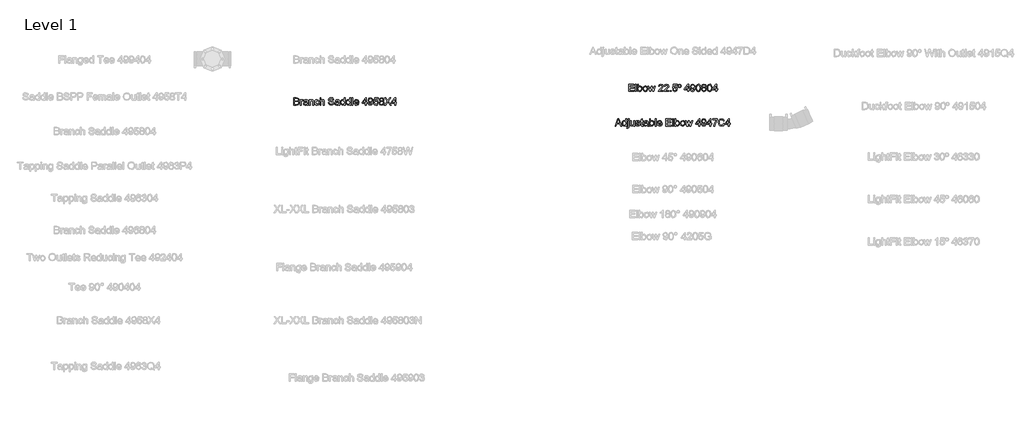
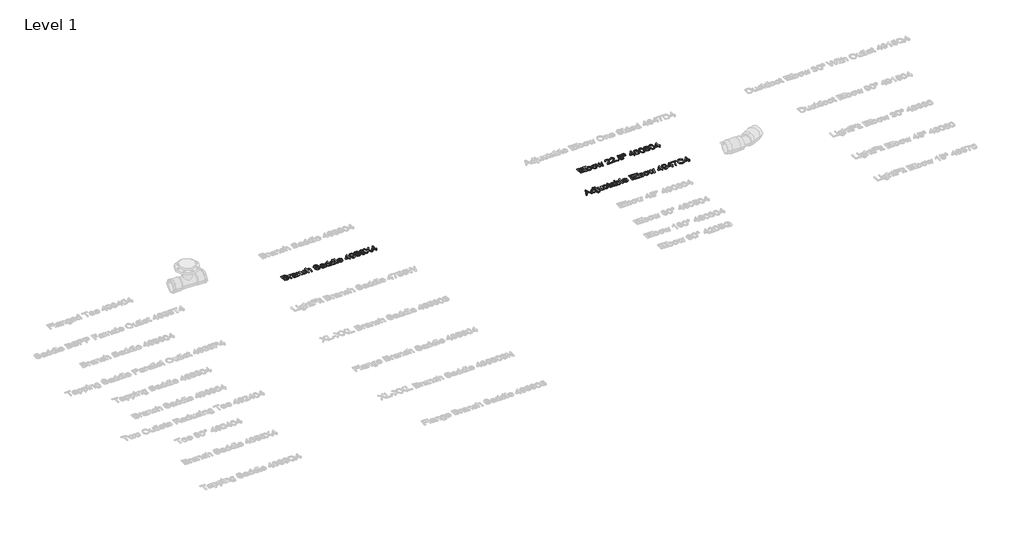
# One storey, part 17 of 41: 3 proxies.
"""IFC4 building model written with IfcOpenShell, lengths in millimetres."""

from ifc_helpers import new_model, si_unit, origin, origin_with_axes, place, context, project, spatial, polyline, outline, extrude, element, save

model = new_model("IFC4")

# Units and contexts
model_context = context("Model", 3, world=origin())
ifc_project = project(units=[si_unit("LENGTHUNIT", "METRE", prefix="MILLI")], contexts=[model_context])

# Site, building, storey
site = spatial("IfcSite", under=ifc_project)
building = spatial("IfcBuilding", under=site)
storey = spatial("IfcBuildingStorey", under=building, Name="Level 1", Elevation=0.0)

# Proxies
placement = place(None, origin())
element("IfcBuildingElementProxy", 1, Name="100 mm Arial", ObjectType="100 mm Arial", at=placement, inside=storey, context=model_context, shape_type="SweptSolid", body=[
    extrude(outline(polyline([(11300.1412583, 4708.1156584), (11300.1412583, 4767.1925814), (11342.6027968, 4767.1925814), (11342.6027968, 4759.8079661), (11307.5258737, 4759.8079661), (11307.5258737, 4742.2695045), (11340.756643, 4742.2695045), (11340.756643, 4734.8848891), (11307.5258737, 4734.8848891), (11307.5258737, 4715.5002738), (11343.5258737, 4715.5002738), (11343.5258737, 4708.1156584), (11300.1412583, 4708.1156584)])), origin_with_axes(), (0.0, 0.0, 1.0), 5.0),
    extrude(outline(polyline([(11353.6797199, 4708.1156584), (11353.6797199, 4767.1925814), (11361.0643353, 4767.1925814), (11361.0643353, 4708.1156584), (11353.6797199, 4708.1156584)])), origin_with_axes(), (0.0, 0.0, 1.0), 5.0),
    extrude(outline(polyline([(11379.5258737, 4708.1156584), (11372.1412583, 4708.1156584), (11372.1412583, 4767.1925814), (11379.5258737, 4767.1925814), (11379.5258737, 4745.2839276), (11384.6965468, 4750.6384949), (11391.1220276, 4752.4233507), (11398.521066, 4750.8151776), (11404.2614506, 4746.293543), (11407.787893, 4739.262293), (11409.0643353, 4730.4570045), (11407.7428208, 4720.5988314), (11403.7782776, 4713.2646968), (11397.9603689, 4708.7106103), (11391.0787583, 4707.1925814), (11384.5126526, 4709.1505141), (11379.5258737, 4715.0243122), (11379.5258737, 4708.1156584)]), holes=[polyline([(11379.5258737, 4730.1108507), (11381.5451045, 4719.7839276), (11390.444143, 4714.5771968), (11398.3479891, 4718.4137353), (11401.6797199, 4729.8512353), (11398.4850083, 4741.3320045), (11390.7614506, 4745.0387353), (11382.8576045, 4741.2021968), (11379.5258737, 4730.1108507)])]), origin_with_axes(), (0.0, 0.0, 1.0), 5.0),
    extrude(outline(polyline([(11415.5258737, 4729.8079661), (11417.1232295, 4740.2683026), (11421.9152968, 4747.6204661), (11434.9249122, 4752.4233507), (11442.6827247, 4750.9612113), (11448.8792391, 4746.574793), (11452.9411381, 4739.6102497), (11454.2951045, 4730.4137353), (11451.9008737, 4717.2743122), (11444.927316, 4709.8392161), (11434.9249122, 4707.1925814), (11427.0733497, 4708.6493122), (11420.8840468, 4713.0195045), (11416.865417, 4720.1300814), (11415.5258737, 4729.8079661)]), holes=[polyline([(11422.9104891, 4729.8223891), (11426.3287583, 4718.3776776), (11434.9249122, 4714.5771968), (11443.4922199, 4718.3993122), (11446.9104891, 4730.0531584), (11443.4705853, 4741.2382545), (11434.9249122, 4745.0387353), (11426.3287583, 4741.2526776), (11422.9104891, 4729.8223891)])]), origin_with_axes(), (0.0, 0.0, 1.0), 5.0),
    extrude(outline(polyline([(11469.7999122, 4708.1156584), (11456.6027968, 4751.5002738), (11464.2758737, 4751.5002738), (11471.7614506, 4726.1877738), (11473.9970276, 4717.1445045), (11475.8287583, 4725.856043), (11481.7854891, 4751.5002738), (11490.583566, 4751.5002738), (11496.5114506, 4725.9281584), (11498.1412583, 4718.0387353), (11500.4777968, 4726.3608507), (11507.9777968, 4751.5002738), (11515.6797199, 4751.5002738), (11502.381643, 4708.1156584), (11493.4537583, 4708.1156584), (11487.7854891, 4733.5579661), (11486.1412583, 4741.4906584), (11478.8287583, 4708.1156584), (11469.7999122, 4708.1156584)])), origin_with_axes(), (0.0, 0.0, 1.0), 5.0),
    extrude(outline(polyline([(11579.833566, 4715.5002738), (11579.833566, 4708.1156584), (11541.0643353, 4708.1156584), (11541.8576045, 4713.2070045), (11546.3431814, 4721.0459468), (11555.5883737, 4729.606043), (11568.3383737, 4741.9089276), (11571.5258737, 4750.2743122), (11568.5186622, 4757.0459468), (11560.6652968, 4759.8079661), (11552.4802006, 4757.1108507), (11549.3720276, 4749.6541199), (11541.9874122, 4750.5771968), (11547.6484699, 4762.9377738), (11560.8239506, 4767.1925814), (11574.0427006, 4762.4618122), (11578.9104891, 4750.7214276), (11577.5979891, 4743.7190238), (11573.2350083, 4736.4786391), (11562.6556814, 4726.3608507), (11554.1604891, 4719.2574853), (11550.8287583, 4715.5002738), (11579.833566, 4715.5002738)])), origin_with_axes(), (0.0, 0.0, 1.0), 5.0),
    extrude(outline(polyline([(11625.0643353, 4715.5002738), (11625.0643353, 4708.1156584), (11586.2951045, 4708.1156584), (11587.0883737, 4713.2070045), (11591.5739506, 4721.0459468), (11600.819143, 4729.606043), (11613.569143, 4741.9089276), (11616.756643, 4750.2743122), (11613.7494314, 4757.0459468), (11605.896066, 4759.8079661), (11597.7109699, 4757.1108507), (11594.6027968, 4749.6541199), (11587.2181814, 4750.5771968), (11592.8792391, 4762.9377738), (11606.0547199, 4767.1925814), (11619.2734699, 4762.4618122), (11624.1412583, 4750.7214276), (11622.8287583, 4743.7190238), (11618.4657776, 4736.4786391), (11607.8864506, 4726.3608507), (11599.3912583, 4719.2574853), (11596.0595276, 4715.5002738), (11625.0643353, 4715.5002738)])), origin_with_axes(), (0.0, 0.0, 1.0), 5.0),
    extrude(outline(polyline([(11636.1412583, 4708.1156584), (11636.1412583, 4715.5002738), (11643.5258737, 4715.5002738), (11643.5258737, 4708.1156584), (11636.1412583, 4708.1156584)])), origin_with_axes(), (0.0, 0.0, 1.0), 5.0),
    extrude(outline(polyline([(11655.5258737, 4723.8079661), (11662.9104891, 4724.731043), (11666.631643, 4717.1228699), (11674.3479891, 4714.5771968), (11683.6076045, 4718.1180622), (11686.9104891, 4727.5146968), (11683.8167391, 4736.2839276), (11674.4633737, 4739.5002738), (11667.9802006, 4738.2166199), (11663.833566, 4734.8848891), (11656.4489506, 4735.8079661), (11662.9104891, 4766.2695045), (11691.5258737, 4766.2695045), (11691.5258737, 4758.8848891), (11668.881643, 4758.8848891), (11665.7229891, 4742.6156584), (11676.5258737, 4746.8848891), (11689.1532776, 4741.5916199), (11694.2951045, 4727.9762353), (11689.6652968, 4714.2743122), (11683.0162583, 4708.9630141), (11674.319143, 4707.1925814), (11661.287893, 4711.7430622), (11655.5258737, 4723.8079661)])), origin_with_axes(), (0.0, 0.0, 1.0), 5.0),
    extrude(outline(polyline([(11712.2951045, 4768.1156584), (11721.944143, 4764.0627738), (11725.6797199, 4752.8704661), (11721.9225083, 4741.7070045), (11712.3383737, 4737.6541199), (11702.6677006, 4741.6276776), (11698.9104891, 4752.6973891), (11702.646066, 4764.0627738), (11712.2951045, 4768.1156584)]), holes=[polyline([(11712.2951045, 4762.5771968), (11707.9465468, 4760.3055622), (11706.2951045, 4752.8848891), (11707.975393, 4745.5291199), (11712.2951045, 4743.1925814), (11716.6292391, 4745.5291199), (11718.2951045, 4753.0868122), (11716.614816, 4760.262293), (11712.2951045, 4762.5771968)])]), origin_with_axes(), (0.0, 0.0, 1.0), 5.0),
    extrude(outline(polyline([(11778.2951045, 4708.1156584), (11778.2951045, 4721.9618122), (11751.5258737, 4721.9618122), (11751.5258737, 4729.3464276), (11780.1412583, 4766.2695045), (11785.6797199, 4766.2695045), (11785.6797199, 4729.3464276), (11793.0643353, 4729.3464276), (11793.0643353, 4721.9618122), (11785.6797199, 4721.9618122), (11785.6797199, 4708.1156584), (11778.2951045, 4708.1156584)]), holes=[polyline([(11778.2951045, 4729.3464276), (11778.2951045, 4752.1637353), (11760.6124122, 4729.3464276), (11778.2951045, 4729.3464276)])]), origin_with_axes(), (0.0, 0.0, 1.0), 5.0),
    extrude(outline(polyline([(11800.4489506, 4722.8848891), (11807.833566, 4723.8079661), (11811.1508737, 4716.762293), (11817.4393353, 4714.5771968), (11823.4177006, 4715.9834468), (11827.4705853, 4719.7406584), (11829.8864506, 4726.1589276), (11830.9537583, 4734.7262353), (11825.0042391, 4730.5723891), (11816.9056814, 4728.4233507), (11804.5667391, 4733.6733507), (11799.5258737, 4747.5050814), (11804.8119314, 4761.7839276), (11818.0595276, 4767.1925814), (11828.5811622, 4764.106043), (11835.8215468, 4755.3079661), (11838.2951045, 4738.7791199), (11835.8287583, 4720.8440238), (11828.4946237, 4710.6829661), (11817.0931814, 4707.1925814), (11805.7422199, 4711.3103699), (11800.4489506, 4722.8848891)]), holes=[polyline([(11830.9104891, 4747.6781584), (11827.7229891, 4756.5339276), (11819.256643, 4759.8079661), (11810.3720276, 4756.2815238), (11806.9104891, 4747.1445045), (11810.1845276, 4738.9594084), (11819.0547199, 4735.8079661), (11827.5715468, 4738.9594084), (11830.9104891, 4747.6781584)])]), origin_with_axes(), (0.0, 0.0, 1.0), 5.0),
    extrude(outline(polyline([(11844.756643, 4737.1781584), (11846.927316, 4754.1757545), (11853.3744314, 4763.9762353), (11864.1412583, 4767.1925814), (11872.7662583, 4765.2887353), (11878.7229891, 4759.8007545), (11882.1845276, 4751.0603699), (11883.5258737, 4737.1781584), (11881.3768353, 4720.2526776), (11874.9513545, 4710.4305622), (11864.1412583, 4707.1925814), (11856.4681814, 4708.5988314), (11850.6412583, 4712.8175814), (11846.2277968, 4722.809168), (11844.756643, 4737.1781584)]), holes=[polyline([(11852.1412583, 4737.1925814), (11855.6027968, 4718.8536391), (11864.1412583, 4714.5771968), (11872.6797199, 4718.8680622), (11876.1412583, 4737.1925814), (11872.7951045, 4755.3223891), (11864.0547199, 4759.8079661), (11855.7181814, 4755.856043), (11852.1412583, 4737.1925814)])]), origin_with_axes(), (0.0, 0.0, 1.0), 5.0),
    extrude(outline(polyline([(11900.7470276, 4740.6541199), (11894.0186622, 4745.2406584), (11891.833566, 4752.3800814), (11896.5931814, 4762.9233507), (11909.271066, 4767.1925814), (11922.0643353, 4762.8223891), (11926.9104891, 4752.1781584), (11924.7542391, 4745.2190238), (11918.2133737, 4740.6541199), (11926.0667391, 4734.8632545), (11928.756643, 4725.3079661), (11923.4201045, 4712.4137353), (11909.3720276, 4707.1925814), (11895.3239506, 4712.4353699), (11889.9874122, 4725.5098891), (11892.7854891, 4735.2887353), (11900.7470276, 4740.6541199)]), holes=[polyline([(11897.3720276, 4725.7695045), (11898.6052006, 4720.2094084), (11902.9681814, 4716.0483507), (11909.4297199, 4714.5771968), (11918.2277968, 4717.6709468), (11921.3720276, 4725.5387353), (11918.1268353, 4733.5579661), (11909.1845276, 4736.731043), (11900.4946237, 4733.6012353), (11897.3720276, 4725.7695045)]), polyline([(11899.2181814, 4752.1637353), (11901.8359699, 4746.3656584), (11909.458566, 4744.1156584), (11916.9297199, 4746.3512353), (11919.5258737, 4751.8320045), (11916.8431814, 4757.5074853), (11909.3720276, 4759.8079661), (11901.8792391, 4757.5579661), (11899.2181814, 4752.1637353)])]), origin_with_axes(), (0.0, 0.0, 1.0), 5.0),
    extrude(outline(polyline([(11935.2181814, 4737.1781584), (11937.3888545, 4754.1757545), (11943.8359699, 4763.9762353), (11954.6027968, 4767.1925814), (11963.2277968, 4765.2887353), (11969.1845276, 4759.8007545), (11972.646066, 4751.0603699), (11973.9874122, 4737.1781584), (11971.8383737, 4720.2526776), (11965.412893, 4710.4305622), (11954.6027968, 4707.1925814), (11946.9297199, 4708.5988314), (11941.1027968, 4712.8175814), (11936.6893353, 4722.809168), (11935.2181814, 4737.1781584)]), holes=[polyline([(11942.6027968, 4737.1925814), (11946.0643353, 4718.8536391), (11954.6027968, 4714.5771968), (11963.1412583, 4718.8680622), (11966.6027968, 4737.1925814), (11963.256643, 4755.3223891), (11954.5162583, 4759.8079661), (11946.1797199, 4755.856043), (11942.6027968, 4737.1925814)])]), origin_with_axes(), (0.0, 0.0, 1.0), 5.0),
    extrude(outline(polyline([(12004.4489506, 4708.1156584), (12004.4489506, 4721.9618122), (11977.6797199, 4721.9618122), (11977.6797199, 4729.3464276), (12006.2951045, 4766.2695045), (12011.833566, 4766.2695045), (12011.833566, 4729.3464276), (12019.2181814, 4729.3464276), (12019.2181814, 4721.9618122), (12011.833566, 4721.9618122), (12011.833566, 4708.1156584), (12004.4489506, 4708.1156584)]), holes=[polyline([(12004.4489506, 4729.3464276), (12004.4489506, 4752.1637353), (11986.7662583, 4729.3464276), (12004.4489506, 4729.3464276)])]), origin_with_axes(), (0.0, 0.0, 1.0), 5.0),
])
element("IfcBuildingElementProxy", 2, Name="100 mm Arial", ObjectType="100 mm Arial", at=placement, inside=storey, context=model_context, shape_type="SweptSolid", body=[
    extrude(outline(polyline([(11189.8768353, 4428.1156584), (11213.458566, 4487.1925814), (11219.7470276, 4487.1925814), (11243.3287583, 4428.1156584), (11235.5258737, 4428.1156584), (11228.7614506, 4446.5771968), (11204.4297199, 4446.5771968), (11197.6797199, 4428.1156584), (11189.8768353, 4428.1156584)]), holes=[polyline([(11207.1412583, 4453.9618122), (11226.0643353, 4453.9618122), (11220.7422199, 4468.4858507), (11216.6027968, 4479.8079661), (11212.9249122, 4469.7550814), (11207.1412583, 4453.9618122)])]), origin_with_axes(), (0.0, 0.0, 1.0), 5.0),
    extrude(outline(polyline([(11277.0643353, 4428.1156584), (11277.0643353, 4435.0820045), (11272.178518, 4429.1649372), (11265.4249122, 4427.1925814), (11256.2806814, 4430.0483507), (11249.819143, 4438.0171007), (11247.5258737, 4449.7646968), (11249.6388545, 4461.5195045), (11255.9705853, 4469.6108507), (11265.396066, 4472.4233507), (11272.2037583, 4470.4113314), (11277.0643353, 4465.1829661), (11277.0643353, 4487.1925814), (11284.4489506, 4487.1925814), (11284.4489506, 4428.1156584), (11277.0643353, 4428.1156584)]), holes=[polyline([(11254.9104891, 4449.793543), (11258.2422199, 4438.3632545), (11266.1027968, 4434.5771968), (11273.8696237, 4438.1901776), (11277.0643353, 4449.231043), (11273.8119314, 4461.2166199), (11265.7999122, 4465.0387353), (11258.0258737, 4461.3680622), (11254.9104891, 4449.793543)])]), origin_with_axes(), (0.0, 0.0, 1.0), 5.0),
    extrude(outline(polyline([(11295.5258737, 4479.8079661), (11295.5258737, 4487.1925814), (11302.9104891, 4487.1925814), (11302.9104891, 4479.8079661), (11295.5258737, 4479.8079661)])), origin_with_axes(), (0.0, 0.0, 1.0), 5.0),
    extrude(outline(polyline([(11286.2229891, 4411.4714276), (11287.7806814, 4418.4954661), (11291.1701045, 4417.9618122), (11294.4513545, 4419.4257545), (11295.5258737, 4426.7454661), (11295.5258737, 4471.5002738), (11302.9104891, 4471.5002738), (11302.9104891, 4425.793543), (11300.819143, 4414.6589276), (11291.9922199, 4410.5771968), (11286.2229891, 4411.4714276)])), origin_with_axes(), (0.0, 0.0, 1.0), 5.0),
    extrude(outline(polyline([(11341.6797199, 4428.1156584), (11341.6797199, 4435.5723891), (11335.896066, 4429.2875334), (11328.3527968, 4427.1925814), (11321.4080853, 4428.6637353), (11316.6196237, 4432.356043), (11314.4201045, 4437.793543), (11313.9874122, 4444.6589276), (11313.9874122, 4471.5002738), (11321.3720276, 4471.5002738), (11321.3720276, 4448.1348891), (11321.819143, 4440.606043), (11324.739816, 4436.1853699), (11330.2422199, 4434.5771968), (11336.4080853, 4436.2214276), (11340.4826045, 4440.699793), (11341.6797199, 4448.9281584), (11341.6797199, 4471.5002738), (11349.0643353, 4471.5002738), (11349.0643353, 4428.1156584), (11341.6797199, 4428.1156584)])), origin_with_axes(), (0.0, 0.0, 1.0), 5.0),
    extrude(outline(polyline([(11356.4489506, 4441.0387353), (11363.833566, 4441.9618122), (11367.2518353, 4436.481043), (11375.083566, 4434.5771968), (11382.6124122, 4436.3223891), (11385.0643353, 4440.418543), (11382.5979891, 4443.7358507), (11374.9970276, 4445.8416199), (11363.8768353, 4449.4546007), (11359.0234699, 4453.6733507), (11357.3720276, 4459.6300814), (11358.6989506, 4465.1324853), (11362.319143, 4469.3368122), (11367.0138545, 4471.5219084), (11373.3672199, 4472.4233507), (11382.3527968, 4470.9738314), (11388.0643353, 4467.0507545), (11390.6027968, 4460.4233507), (11383.2181814, 4459.5002738), (11380.4417391, 4463.574793), (11373.944143, 4465.0387353), (11366.8768353, 4463.6396968), (11364.756643, 4460.3800814), (11365.6364506, 4458.231043), (11368.3912583, 4456.6012353), (11374.7518353, 4455.0291199), (11385.5907776, 4451.5531584), (11390.6244314, 4447.6156584), (11392.4489506, 4441.1973891), (11390.3071237, 4434.1300814), (11384.1268353, 4429.0026776), (11374.9826045, 4427.1925814), (11362.1027968, 4430.6829661), (11356.4489506, 4441.0387353)])), origin_with_axes(), (0.0, 0.0, 1.0), 5.0),
    extrude(outline(polyline([(11416.4489506, 4434.2743122), (11417.3720276, 4427.8993122), (11411.8479891, 4427.1925814), (11405.6604891, 4428.418543), (11402.5739506, 4431.6348891), (11401.6797199, 4440.0146968), (11401.6797199, 4464.1156584), (11396.1412583, 4464.1156584), (11396.1412583, 4471.5002738), (11401.6797199, 4471.5002738), (11401.6797199, 4482.043543), (11409.0643353, 4486.3848891), (11409.0643353, 4471.5002738), (11416.4489506, 4471.5002738), (11416.4489506, 4464.1156584), (11409.0643353, 4464.1156584), (11409.0643353, 4440.231043), (11409.4537583, 4436.4233507), (11410.7157776, 4435.074793), (11413.2326045, 4434.5771968), (11416.4489506, 4434.2743122)])), origin_with_axes(), (0.0, 0.0, 1.0), 5.0),
    extrude(outline(polyline([(11451.5258737, 4433.6541199), (11444.364816, 4428.6493122), (11436.4537583, 4427.1925814), (11425.7302006, 4430.6973891), (11421.9874122, 4439.6541199), (11423.4008737, 4445.4954661), (11427.114816, 4449.7358507), (11432.2854891, 4452.1589276), (11438.6749122, 4453.2695045), (11451.4826045, 4455.8079661), (11451.5258737, 4457.4521968), (11449.4922199, 4462.9041199), (11441.3287583, 4465.0387353), (11433.8576045, 4463.6180622), (11430.2951045, 4458.5771968), (11422.9104891, 4459.5002738), (11426.1052006, 4466.7118122), (11432.537893, 4470.9377738), (11442.2806814, 4472.4233507), (11451.2302006, 4471.1108507), (11456.2854891, 4467.8151776), (11458.5499122, 4462.8031584), (11458.9104891, 4456.3416199), (11458.9104891, 4447.1541199), (11459.2854891, 4434.324793), (11460.756643, 4428.1156584), (11453.3720276, 4428.1156584), (11451.5258737, 4433.6541199)]), holes=[polyline([(11451.5258737, 4448.4233507), (11439.6124122, 4446.1589276), (11433.2590468, 4444.9618122), (11430.381643, 4443.0146968), (11429.3720276, 4440.1733507), (11431.5715468, 4436.1781584), (11438.0258737, 4434.5771968), (11445.4970276, 4436.3440238), (11450.3143353, 4440.6204661), (11451.4826045, 4446.3320045), (11451.5258737, 4448.4233507)])]), origin_with_axes(), (0.0, 0.0, 1.0), 5.0),
    extrude(outline(polyline([(11476.4489506, 4428.1156584), (11469.0643353, 4428.1156584), (11469.0643353, 4487.1925814), (11476.4489506, 4487.1925814), (11476.4489506, 4465.2839276), (11481.6196237, 4470.6384949), (11488.0451045, 4472.4233507), (11495.444143, 4470.8151776), (11501.1845276, 4466.293543), (11504.7109699, 4459.262293), (11505.9874122, 4450.4570045), (11504.6658978, 4440.5988314), (11500.7013545, 4433.2646968), (11494.8834458, 4428.7106103), (11488.0018353, 4427.1925814), (11481.4357295, 4429.1505141), (11476.4489506, 4435.0243122), (11476.4489506, 4428.1156584)]), holes=[polyline([(11476.4489506, 4450.1108507), (11478.4681814, 4439.7839276), (11487.3672199, 4434.5771968), (11495.271066, 4438.4137353), (11498.6027968, 4449.8512353), (11495.4080853, 4461.3320045), (11487.6845276, 4465.0387353), (11479.7806814, 4461.2021968), (11476.4489506, 4450.1108507)])]), origin_with_axes(), (0.0, 0.0, 1.0), 5.0),
    extrude(outline(polyline([(11514.2951045, 4428.1156584), (11514.2951045, 4487.1925814), (11521.6797199, 4487.1925814), (11521.6797199, 4428.1156584), (11514.2951045, 4428.1156584)])), origin_with_axes(), (0.0, 0.0, 1.0), 5.0),
    extrude(outline(polyline([(11563.131643, 4441.0387353), (11570.3720276, 4440.1156584), (11563.600393, 4430.5820045), (11550.9874122, 4427.1925814), (11542.3227487, 4428.6547209), (11535.6556814, 4433.0411391), (11531.4044795, 4440.0669805), (11529.9874122, 4449.4473891), (11531.4189026, 4459.1433026), (11535.7133737, 4466.3945045), (11542.2902968, 4470.9161391), (11550.569143, 4472.4233507), (11558.5901766, 4470.9197449), (11564.9994314, 4466.4089276), (11569.2019555, 4459.1721488), (11570.6027968, 4449.4906584), (11570.5595276, 4447.5002738), (11537.3720276, 4447.5002738), (11541.6196237, 4437.9089276), (11551.131643, 4434.5771968), (11558.3720276, 4436.1204661), (11563.131643, 4441.0387353)]), holes=[polyline([(11537.3720276, 4454.8848891), (11563.2181814, 4454.8848891), (11560.2614506, 4461.5771968), (11550.5402968, 4465.0387353), (11541.4465468, 4462.2767161), (11537.3720276, 4454.8848891)])]), origin_with_axes(), (0.0, 0.0, 1.0), 5.0),
    extrude(outline(polyline([(11601.9874122, 4428.1156584), (11601.9874122, 4487.1925814), (11644.4489506, 4487.1925814), (11644.4489506, 4479.8079661), (11609.3720276, 4479.8079661), (11609.3720276, 4462.2695045), (11642.6027968, 4462.2695045), (11642.6027968, 4454.8848891), (11609.3720276, 4454.8848891), (11609.3720276, 4435.5002738), (11645.3720276, 4435.5002738), (11645.3720276, 4428.1156584), (11601.9874122, 4428.1156584)])), origin_with_axes(), (0.0, 0.0, 1.0), 5.0),
    extrude(outline(polyline([(11655.5258737, 4428.1156584), (11655.5258737, 4487.1925814), (11662.9104891, 4487.1925814), (11662.9104891, 4428.1156584), (11655.5258737, 4428.1156584)])), origin_with_axes(), (0.0, 0.0, 1.0), 5.0),
    extrude(outline(polyline([(11681.3720276, 4428.1156584), (11673.9874122, 4428.1156584), (11673.9874122, 4487.1925814), (11681.3720276, 4487.1925814), (11681.3720276, 4465.2839276), (11686.5427006, 4470.6384949), (11692.9681814, 4472.4233507), (11700.3672199, 4470.8151776), (11706.1076045, 4466.293543), (11709.6340468, 4459.262293), (11710.9104891, 4450.4570045), (11709.5889747, 4440.5988314), (11705.6244314, 4433.2646968), (11699.8065228, 4428.7106103), (11692.9249122, 4427.1925814), (11686.3588064, 4429.1505141), (11681.3720276, 4435.0243122), (11681.3720276, 4428.1156584)]), holes=[polyline([(11681.3720276, 4450.1108507), (11683.3912583, 4439.7839276), (11692.2902968, 4434.5771968), (11700.194143, 4438.4137353), (11703.5258737, 4449.8512353), (11700.3311622, 4461.3320045), (11692.6076045, 4465.0387353), (11684.7037583, 4461.2021968), (11681.3720276, 4450.1108507)])]), origin_with_axes(), (0.0, 0.0, 1.0), 5.0),
    extrude(outline(polyline([(11717.3720276, 4449.8079661), (11718.9693833, 4460.2683026), (11723.7614506, 4467.6204661), (11736.771066, 4472.4233507), (11744.5288785, 4470.9612113), (11750.725393, 4466.574793), (11754.787292, 4459.6102497), (11756.1412583, 4450.4137353), (11753.7470276, 4437.2743122), (11746.7734699, 4429.8392161), (11736.771066, 4427.1925814), (11728.9195035, 4428.6493122), (11722.7302006, 4433.0195045), (11718.7115708, 4440.1300814), (11717.3720276, 4449.8079661)]), holes=[polyline([(11724.756643, 4449.8223891), (11728.1749122, 4438.3776776), (11736.771066, 4434.5771968), (11745.3383737, 4438.3993122), (11748.756643, 4450.0531584), (11745.3167391, 4461.2382545), (11736.771066, 4465.0387353), (11728.1749122, 4461.2526776), (11724.756643, 4449.8223891)])]), origin_with_axes(), (0.0, 0.0, 1.0), 5.0),
    extrude(outline(polyline([(11771.646066, 4428.1156584), (11758.4489506, 4471.5002738), (11766.1220276, 4471.5002738), (11773.6076045, 4446.1877738), (11775.8431814, 4437.1445045), (11777.6749122, 4445.856043), (11783.631643, 4471.5002738), (11792.4297199, 4471.5002738), (11798.3576045, 4445.9281584), (11799.9874122, 4438.0387353), (11802.3239506, 4446.3608507), (11809.8239506, 4471.5002738), (11817.5258737, 4471.5002738), (11804.2277968, 4428.1156584), (11795.2999122, 4428.1156584), (11789.631643, 4453.5579661), (11787.9874122, 4461.4906584), (11780.6749122, 4428.1156584), (11771.646066, 4428.1156584)])), origin_with_axes(), (0.0, 0.0, 1.0), 5.0),
    extrude(outline(polyline([(11867.833566, 4428.1156584), (11867.833566, 4441.9618122), (11841.0643353, 4441.9618122), (11841.0643353, 4449.3464276), (11869.6797199, 4486.2695045), (11875.2181814, 4486.2695045), (11875.2181814, 4449.3464276), (11882.6027968, 4449.3464276), (11882.6027968, 4441.9618122), (11875.2181814, 4441.9618122), (11875.2181814, 4428.1156584), (11867.833566, 4428.1156584)]), holes=[polyline([(11867.833566, 4449.3464276), (11867.833566, 4472.1637353), (11850.1508737, 4449.3464276), (11867.833566, 4449.3464276)])]), origin_with_axes(), (0.0, 0.0, 1.0), 5.0),
    extrude(outline(polyline([(11889.9874122, 4442.8848891), (11897.3720276, 4443.8079661), (11900.6893353, 4436.762293), (11906.9777968, 4434.5771968), (11912.9561622, 4435.9834468), (11917.0090468, 4439.7406584), (11919.4249122, 4446.1589276), (11920.4922199, 4454.7262353), (11914.5427006, 4450.5723891), (11906.444143, 4448.4233507), (11894.1052006, 4453.6733507), (11889.0643353, 4467.5050814), (11894.350393, 4481.7839276), (11907.5979891, 4487.1925814), (11918.1196237, 4484.106043), (11925.3600083, 4475.3079661), (11927.833566, 4458.7791199), (11925.3672199, 4440.8440238), (11918.0330853, 4430.6829661), (11906.631643, 4427.1925814), (11895.2806814, 4431.3103699), (11889.9874122, 4442.8848891)]), holes=[polyline([(11920.4489506, 4467.6781584), (11917.2614506, 4476.5339276), (11908.7951045, 4479.8079661), (11899.9104891, 4476.2815238), (11896.4489506, 4467.1445045), (11899.7229891, 4458.9594084), (11908.5931814, 4455.8079661), (11917.1100083, 4458.9594084), (11920.4489506, 4467.6781584)])]), origin_with_axes(), (0.0, 0.0, 1.0), 5.0),
    extrude(outline(polyline([(11958.2951045, 4428.1156584), (11958.2951045, 4441.9618122), (11931.5258737, 4441.9618122), (11931.5258737, 4449.3464276), (11960.1412583, 4486.2695045), (11965.6797199, 4486.2695045), (11965.6797199, 4449.3464276), (11973.0643353, 4449.3464276), (11973.0643353, 4441.9618122), (11965.6797199, 4441.9618122), (11965.6797199, 4428.1156584), (11958.2951045, 4428.1156584)]), holes=[polyline([(11958.2951045, 4449.3464276), (11958.2951045, 4472.1637353), (11940.6124122, 4449.3464276), (11958.2951045, 4449.3464276)])]), origin_with_axes(), (0.0, 0.0, 1.0), 5.0),
    extrude(outline(polyline([(11979.5258737, 4478.8848891), (11979.5258737, 4486.2695045), (12018.2951045, 4486.2695045), (12018.2951045, 4480.2983507), (12007.2975083, 4464.4113314), (11998.881643, 4444.168543), (11996.1412583, 4428.1156584), (11988.756643, 4428.1156584), (11991.6917391, 4444.7743122), (11999.7470276, 4463.6036391), (12010.9104891, 4478.8848891), (11979.5258737, 4478.8848891)])), origin_with_axes(), (0.0, 0.0, 1.0), 5.0),
    extrude(outline(polyline([(12069.0643353, 4449.1156584), (12076.4489506, 4447.2118122), (12067.694143, 4432.3199853), (12052.2326045, 4427.1925814), (12036.864816, 4431.0723891), (12027.850393, 4442.3079661), (12024.756643, 4458.1012353), (12028.2542391, 4474.1541199), (12038.1989506, 4484.5603699), (12052.3912583, 4488.1156584), (12067.1821237, 4483.5146968), (12075.5258737, 4470.5627738), (12068.1412583, 4468.8031584), (12062.083566, 4477.8824853), (12052.1027968, 4480.731043), (12040.5499122, 4477.5723891), (12034.0234699, 4469.0916199), (12032.1412583, 4458.1156584), (12034.3696237, 4445.3945045), (12041.3071237, 4437.2671007), (12051.4970276, 4434.5771968), (12062.7975083, 4438.2406584), (12069.0643353, 4449.1156584)])), origin_with_axes(), (0.0, 0.0, 1.0), 5.0),
    extrude(outline(polyline([(12107.833566, 4428.1156584), (12107.833566, 4441.9618122), (12081.0643353, 4441.9618122), (12081.0643353, 4449.3464276), (12109.6797199, 4486.2695045), (12115.2181814, 4486.2695045), (12115.2181814, 4449.3464276), (12122.6027968, 4449.3464276), (12122.6027968, 4441.9618122), (12115.2181814, 4441.9618122), (12115.2181814, 4428.1156584), (12107.833566, 4428.1156584)]), holes=[polyline([(12107.833566, 4449.3464276), (12107.833566, 4472.1637353), (12090.1508737, 4449.3464276), (12107.833566, 4449.3464276)])]), origin_with_axes(), (0.0, 0.0, 1.0), 5.0),
])
element("IfcBuildingElementProxy", 3, Name="100 mm Arial", ObjectType="100 mm Arial", at=placement, inside=storey, context=model_context, shape_type="SweptSolid", body=[
    extrude(outline(polyline([(8589.6731533, 4597.5779735), (8589.6731533, 4656.6548966), (8612.2164226, 4656.6548966), (8623.257288, 4654.9169158), (8629.7765187, 4649.5731658), (8632.1346918, 4642.0154735), (8630.1515187, 4635.1140312), (8624.1587303, 4629.8856658), (8631.4351726, 4624.3760505), (8633.9808456, 4615.1885505), (8632.2428649, 4607.2486466), (8627.9375764, 4601.5948005), (8621.5120956, 4598.5948005), (8612.0433456, 4597.5779735), (8589.6731533, 4597.5779735)]), holes=[polyline([(8597.0577687, 4604.9625889), (8612.2019995, 4604.9625889), (8617.6827687, 4605.2510505), (8622.319788, 4606.8592235), (8625.3919033, 4610.1404735), (8626.5962303, 4615.1164351), (8625.1827687, 4620.8568197), (8620.6034418, 4624.2823005), (8611.4808456, 4625.2702812), (8597.0577687, 4625.2702812), (8597.0577687, 4604.9625889)]), polyline([(8597.0577687, 4632.6548966), (8610.5433456, 4632.6548966), (8618.4183456, 4633.289512), (8623.1563264, 4636.0226851), (8624.7500764, 4640.8327812), (8623.2644995, 4645.6500889), (8619.0096918, 4648.4986466), (8609.5193072, 4649.2702812), (8597.0577687, 4649.2702812), (8597.0577687, 4632.6548966)])]), origin_with_axes(), (0.0, 0.0, 1.0), 5.0),
    extrude(outline(polyline([(8643.2116149, 4597.5779735), (8643.2116149, 4640.9625889), (8649.6731533, 4640.9625889), (8649.6731533, 4634.5443197), (8654.2596918, 4640.4577812), (8658.8750764, 4641.8856658), (8666.288538, 4639.6068197), (8663.8221918, 4632.9866274), (8658.6298841, 4634.5010505), (8654.4544033, 4633.0443197), (8651.7933456, 4629.0058582), (8650.5962303, 4620.3808582), (8650.5962303, 4597.5779735), (8643.2116149, 4597.5779735)])), origin_with_axes(), (0.0, 0.0, 1.0), 5.0),
    extrude(outline(polyline([(8698.5962303, 4603.1164351), (8691.4351726, 4598.1116274), (8683.5241149, 4596.6548966), (8672.8005572, 4600.1597043), (8669.0577687, 4609.1164351), (8670.4712303, 4614.9577812), (8674.1851726, 4619.1981658), (8679.3558456, 4621.6212428), (8685.7452687, 4622.7318197), (8698.552961, 4625.2702812), (8698.5962303, 4626.914512), (8696.5625764, 4632.3664351), (8688.3991149, 4634.5010505), (8680.927961, 4633.0803774), (8677.365461, 4628.039512), (8669.9808456, 4628.9625889), (8673.1755572, 4636.1741274), (8679.6082495, 4640.4000889), (8689.351038, 4641.8856658), (8698.3005572, 4640.5731658), (8703.3558456, 4637.2774928), (8705.6202687, 4632.2654735), (8705.9808456, 4625.8039351), (8705.9808456, 4616.6164351), (8706.3558456, 4603.7871082), (8707.8269995, 4597.5779735), (8700.4423841, 4597.5779735), (8698.5962303, 4603.1164351)]), holes=[polyline([(8698.5962303, 4617.8856658), (8686.6827687, 4615.6212428), (8680.3294033, 4614.4241274), (8677.4519995, 4612.477012), (8676.4423841, 4609.6356658), (8678.6419033, 4605.6404735), (8685.0962303, 4604.039512), (8692.5673841, 4605.8063389), (8697.3846918, 4610.0827812), (8698.552961, 4615.7943197), (8698.5962303, 4617.8856658)])]), origin_with_axes(), (0.0, 0.0, 1.0), 5.0),
    extrude(outline(polyline([(8716.1346918, 4597.5779735), (8716.1346918, 4640.9625889), (8723.5193072, 4640.9625889), (8723.5193072, 4634.9048966), (8729.1659418, 4640.1404735), (8736.8750764, 4641.8856658), (8743.8486341, 4640.4794158), (8748.6082495, 4636.7871082), (8750.8221918, 4631.3568197), (8751.2116149, 4624.2173966), (8751.2116149, 4597.5779735), (8743.8269995, 4597.5779735), (8743.8269995, 4623.2222043), (8742.976038, 4629.7558582), (8739.9688264, 4633.2101851), (8734.8991149, 4634.5010505), (8726.8870956, 4631.602012), (8723.5193072, 4620.5972043), (8723.5193072, 4597.5779735), (8716.1346918, 4597.5779735)])), origin_with_axes(), (0.0, 0.0, 1.0), 5.0),
    extrude(outline(polyline([(8789.0577687, 4613.2702812), (8796.4423841, 4612.3472043), (8790.5144995, 4600.8159543), (8778.802961, 4596.6548966), (8770.9477928, 4598.1062187), (8764.8053649, 4602.4601851), (8760.8408216, 4609.5256899), (8759.5193072, 4619.1116274), (8761.7765187, 4631.3784543), (8768.6563264, 4639.2606658), (8778.7019995, 4641.8856658), (8789.9303649, 4638.2798966), (8795.5193072, 4628.039512), (8788.1346918, 4627.1164351), (8784.709211, 4632.6476851), (8778.7596918, 4634.5010505), (8770.1995956, 4630.852012), (8766.9039226, 4619.3135505), (8770.1274803, 4607.6669158), (8778.5577687, 4604.039512), (8785.5169033, 4606.3039351), (8789.0577687, 4613.2702812)])), origin_with_axes(), (0.0, 0.0, 1.0), 5.0),
    extrude(outline(polyline([(8802.9039226, 4597.5779735), (8802.9039226, 4656.6548966), (8810.288538, 4656.6548966), (8810.288538, 4634.9337428), (8816.0469514, 4640.1476851), (8823.1394995, 4641.8856658), (8831.4327687, 4639.9890312), (8836.4664226, 4634.7462428), (8837.9808456, 4625.039512), (8837.9808456, 4597.5779735), (8830.5962303, 4597.5779735), (8830.5962303, 4624.2750889), (8828.2452687, 4632.0635505), (8821.5818072, 4634.5010505), (8815.5313264, 4632.8568197), (8811.4928649, 4628.4000889), (8810.288538, 4620.6260505), (8810.288538, 4597.5779735), (8802.9039226, 4597.5779735)])), origin_with_axes(), (0.0, 0.0, 1.0), 5.0),
    extrude(outline(polyline([(8869.365461, 4617.8856658), (8876.7500764, 4617.8856658), (8879.1298841, 4610.4938389), (8884.9423841, 4605.820762), (8893.7981533, 4604.039512), (8901.5144995, 4605.3880697), (8906.4976726, 4609.0948005), (8908.1346918, 4614.0491274), (8906.9087303, 4618.6573005), (8901.8894995, 4622.0106658), (8891.1370956, 4624.8303774), (8879.5625764, 4628.4722043), (8873.2813264, 4633.9673966), (8871.2116149, 4641.3087428), (8873.771711, 4649.6669158), (8881.2500764, 4655.5659543), (8892.1971918, 4657.5779735), (8903.8798841, 4655.4722043), (8911.6683456, 4649.2847043), (8914.5962303, 4640.039512), (8907.2116149, 4640.039512), (8903.0289226, 4647.6260505), (8892.4856533, 4650.1933582), (8881.913538, 4647.6548966), (8878.5962303, 4641.5250889), (8880.9471918, 4636.4048966), (8893.0048841, 4632.2798966), (8906.0721918, 4628.5731658), (8913.2188264, 4622.5875889), (8915.5193072, 4614.2366274), (8912.8726726, 4605.4024928), (8905.257288, 4598.9553774), (8894.0866149, 4596.6548966), (8880.896711, 4599.1356658), (8872.552961, 4606.6068197), (8869.365461, 4617.8856658)])), origin_with_axes(), (0.0, 0.0, 1.0), 5.0),
    extrude(outline(polyline([(8953.365461, 4603.1164351), (8946.2044033, 4598.1116274), (8938.2933456, 4596.6548966), (8927.569788, 4600.1597043), (8923.8269995, 4609.1164351), (8925.240461, 4614.9577812), (8928.9544033, 4619.1981658), (8934.1250764, 4621.6212428), (8940.5144995, 4622.7318197), (8953.3221918, 4625.2702812), (8953.365461, 4626.914512), (8951.3318072, 4632.3664351), (8943.1683456, 4634.5010505), (8935.6971918, 4633.0803774), (8932.1346918, 4628.039512), (8924.7500764, 4628.9625889), (8927.944788, 4636.1741274), (8934.3774803, 4640.4000889), (8944.1202687, 4641.8856658), (8953.069788, 4640.5731658), (8958.1250764, 4637.2774928), (8960.3894995, 4632.2654735), (8960.7500764, 4625.8039351), (8960.7500764, 4616.6164351), (8961.1250764, 4603.7871082), (8962.5962303, 4597.5779735), (8955.2116149, 4597.5779735), (8953.365461, 4603.1164351)]), holes=[polyline([(8953.365461, 4617.8856658), (8941.4519995, 4615.6212428), (8935.0986341, 4614.4241274), (8932.2212303, 4612.477012), (8931.2116149, 4609.6356658), (8933.4111341, 4605.6404735), (8939.865461, 4604.039512), (8947.3366149, 4605.8063389), (8952.1539226, 4610.0827812), (8953.3221918, 4615.7943197), (8953.365461, 4617.8856658)])]), origin_with_axes(), (0.0, 0.0, 1.0), 5.0),
    extrude(outline(polyline([(8997.6731533, 4597.5779735), (8997.6731533, 4604.5443197), (8992.787336, 4598.6272524), (8986.0337303, 4596.6548966), (8976.8894995, 4599.5106658), (8970.427961, 4607.4794158), (8968.1346918, 4619.227012), (8970.2476726, 4630.9818197), (8976.5794033, 4639.0731658), (8986.0048841, 4641.8856658), (8992.8125764, 4639.8736466), (8997.6731533, 4634.6452812), (8997.6731533, 4656.6548966), (9005.0577687, 4656.6548966), (9005.0577687, 4597.5779735), (8997.6731533, 4597.5779735)]), holes=[polyline([(8975.5193072, 4619.2558582), (8978.851038, 4607.8255697), (8986.7116149, 4604.039512), (8994.4784418, 4607.6524928), (8997.6731533, 4618.6933582), (8994.4207495, 4630.6789351), (8986.4087303, 4634.5010505), (8978.6346918, 4630.8303774), (8975.5193072, 4619.2558582)])]), origin_with_axes(), (0.0, 0.0, 1.0), 5.0),
    extrude(outline(polyline([(9042.9039226, 4597.5779735), (9042.9039226, 4604.5443197), (9038.0181053, 4598.6272524), (9031.2644995, 4596.6548966), (9022.1202687, 4599.5106658), (9015.6587303, 4607.4794158), (9013.365461, 4619.227012), (9015.4784418, 4630.9818197), (9021.8101726, 4639.0731658), (9031.2356533, 4641.8856658), (9038.0433456, 4639.8736466), (9042.9039226, 4634.6452812), (9042.9039226, 4656.6548966), (9050.288538, 4656.6548966), (9050.288538, 4597.5779735), (9042.9039226, 4597.5779735)]), holes=[polyline([(9020.7500764, 4619.2558582), (9024.0818072, 4607.8255697), (9031.9423841, 4604.039512), (9039.709211, 4607.6524928), (9042.9039226, 4618.6933582), (9039.6515187, 4630.6789351), (9031.6394995, 4634.5010505), (9023.865461, 4630.8303774), (9020.7500764, 4619.2558582)])]), origin_with_axes(), (0.0, 0.0, 1.0), 5.0),
    extrude(outline(polyline([(9061.365461, 4597.5779735), (9061.365461, 4656.6548966), (9068.7500764, 4656.6548966), (9068.7500764, 4597.5779735), (9061.365461, 4597.5779735)])), origin_with_axes(), (0.0, 0.0, 1.0), 5.0),
    extrude(outline(polyline([(9110.2019995, 4610.5010505), (9117.4423841, 4609.5779735), (9110.6707495, 4600.0443197), (9098.0577687, 4596.6548966), (9089.3931053, 4598.117036), (9082.726038, 4602.5034543), (9078.474836, 4609.5292957), (9077.0577687, 4618.9097043), (9078.4892591, 4628.6056178), (9082.7837303, 4635.8568197), (9089.3606533, 4640.3784543), (9097.6394995, 4641.8856658), (9105.6605331, 4640.3820601), (9112.069788, 4635.8712428), (9116.272312, 4628.6344639), (9117.6731533, 4618.9529735), (9117.6298841, 4616.9625889), (9084.4423841, 4616.9625889), (9088.6899803, 4607.3712428), (9098.2019995, 4604.039512), (9105.4423841, 4605.5827812), (9110.2019995, 4610.5010505)]), holes=[polyline([(9084.4423841, 4624.3472043), (9110.288538, 4624.3472043), (9107.3318072, 4631.039512), (9097.6106533, 4634.5010505), (9088.5169033, 4631.7390312), (9084.4423841, 4624.3472043)])]), origin_with_axes(), (0.0, 0.0, 1.0), 5.0),
    extrude(outline(polyline([(9170.288538, 4597.5779735), (9170.288538, 4611.4241274), (9143.5193072, 4611.4241274), (9143.5193072, 4618.8087428), (9172.1346918, 4655.7318197), (9177.6731533, 4655.7318197), (9177.6731533, 4618.8087428), (9185.0577687, 4618.8087428), (9185.0577687, 4611.4241274), (9177.6731533, 4611.4241274), (9177.6731533, 4597.5779735), (9170.288538, 4597.5779735)]), holes=[polyline([(9170.288538, 4618.8087428), (9170.288538, 4641.6260505), (9152.6058456, 4618.8087428), (9170.288538, 4618.8087428)])]), origin_with_axes(), (0.0, 0.0, 1.0), 5.0),
    extrude(outline(polyline([(9192.4423841, 4612.3472043), (9199.8269995, 4613.2702812), (9203.1443072, 4606.2246082), (9209.4327687, 4604.039512), (9215.4111341, 4605.445762), (9219.4640187, 4609.2029735), (9221.8798841, 4615.6212428), (9222.9471918, 4624.1885505), (9216.9976726, 4620.0347043), (9208.8991149, 4617.8856658), (9196.5601726, 4623.1356658), (9191.5193072, 4636.9673966), (9196.8053649, 4651.2462428), (9210.052961, 4656.6548966), (9220.5745956, 4653.5683582), (9227.8149803, 4644.7702812), (9230.288538, 4628.2414351), (9227.8221918, 4610.3063389), (9220.4880572, 4600.1452812), (9209.0866149, 4596.6548966), (9197.7356533, 4600.7726851), (9192.4423841, 4612.3472043)]), holes=[polyline([(9222.9039226, 4637.1404735), (9219.7164226, 4645.9962428), (9211.2500764, 4649.2702812), (9202.365461, 4645.7438389), (9198.9039226, 4636.6068197), (9202.177961, 4628.4217235), (9211.0481533, 4625.2702812), (9219.5649803, 4628.4217235), (9222.9039226, 4637.1404735)])]), origin_with_axes(), (0.0, 0.0, 1.0), 5.0),
    extrude(outline(polyline([(9236.7500764, 4613.2702812), (9244.1346918, 4614.1933582), (9247.8558456, 4606.5851851), (9255.5721918, 4604.039512), (9264.8318072, 4607.5803774), (9268.1346918, 4616.977012), (9265.0409418, 4625.7462428), (9255.6875764, 4628.9625889), (9249.2044033, 4627.6789351), (9245.0577687, 4624.3472043), (9237.6731533, 4625.2702812), (9244.1346918, 4655.7318197), (9272.7500764, 4655.7318197), (9272.7500764, 4648.3472043), (9250.1058456, 4648.3472043), (9246.9471918, 4632.0779735), (9257.7500764, 4636.3472043), (9270.3774803, 4631.0539351), (9275.5193072, 4617.4385505), (9270.8894995, 4603.7366274), (9264.240461, 4598.4253293), (9255.5433456, 4596.6548966), (9242.5120956, 4601.2053774), (9236.7500764, 4613.2702812)])), origin_with_axes(), (0.0, 0.0, 1.0), 5.0),
    extrude(outline(polyline([(9292.740461, 4630.1164351), (9286.0120956, 4634.7029735), (9283.8269995, 4641.8423966), (9288.5866149, 4652.3856658), (9301.2644995, 4656.6548966), (9314.0577687, 4652.2847043), (9318.9039226, 4641.6404735), (9316.7476726, 4634.6813389), (9310.2068072, 4630.1164351), (9318.0601726, 4624.3255697), (9320.7500764, 4614.7702812), (9315.413538, 4601.8760505), (9301.365461, 4596.6548966), (9287.3173841, 4601.8976851), (9281.9808456, 4614.9722043), (9284.7789226, 4624.7510505), (9292.740461, 4630.1164351)]), holes=[polyline([(9291.2116149, 4641.6260505), (9293.8294033, 4635.8279735), (9301.4519995, 4633.5779735), (9308.9231533, 4635.8135505), (9311.5193072, 4641.2943197), (9308.8366149, 4646.9698005), (9301.365461, 4649.2702812), (9293.8726726, 4647.0202812), (9291.2116149, 4641.6260505)]), polyline([(9289.365461, 4615.2318197), (9290.5986341, 4609.6717235), (9294.9616149, 4605.5106658), (9301.4231533, 4604.039512), (9310.2212303, 4607.133262), (9313.365461, 4615.0010505), (9310.1202687, 4623.0202812), (9301.177961, 4626.1933582), (9292.4880572, 4623.0635505), (9289.365461, 4615.2318197)])]), origin_with_axes(), (0.0, 0.0, 1.0), 5.0),
    extrude(outline(polyline([(9323.5193072, 4597.5779735), (9346.2933456, 4629.7702812), (9327.2116149, 4656.6548966), (9336.0673841, 4656.6548966), (9346.8125764, 4641.5250889), (9350.4327687, 4635.6260505), (9354.6731533, 4641.6260505), (9365.302961, 4656.6548966), (9374.288538, 4656.6548966), (9355.2068072, 4629.6837428), (9377.9808456, 4597.5779735), (9369.1250764, 4597.5779735), (9353.9519995, 4618.9818197), (9350.7933456, 4623.4241274), (9347.3173841, 4618.5491274), (9332.5048841, 4597.5779735), (9323.5193072, 4597.5779735)])), origin_with_axes(), (0.0, 0.0, 1.0), 5.0),
    extrude(outline(polyline([(9406.5962303, 4597.5779735), (9406.5962303, 4611.4241274), (9379.8269995, 4611.4241274), (9379.8269995, 4618.8087428), (9408.4423841, 4655.7318197), (9413.9808456, 4655.7318197), (9413.9808456, 4618.8087428), (9421.365461, 4618.8087428), (9421.365461, 4611.4241274), (9413.9808456, 4611.4241274), (9413.9808456, 4597.5779735), (9406.5962303, 4597.5779735)]), holes=[polyline([(9406.5962303, 4618.8087428), (9406.5962303, 4641.6260505), (9388.913538, 4618.8087428), (9406.5962303, 4618.8087428)])]), origin_with_axes(), (0.0, 0.0, 1.0), 5.0),
])

save(model, "model.ifc")
